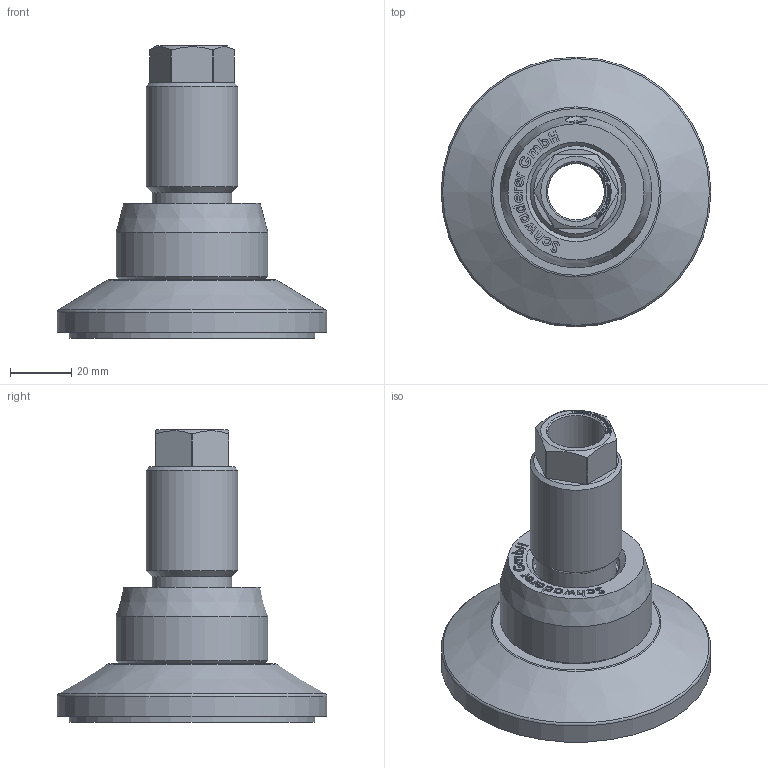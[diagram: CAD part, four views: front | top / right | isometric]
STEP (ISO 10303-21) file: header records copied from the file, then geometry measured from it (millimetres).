
FILE_DESCRIPTION(/* description */ ('JCM 80C - M30 - S6'),/* implementation_level */ '2;1');
FILE_NAME(/* name */ 'P:\CAD ab 2015\STP - Internetseite\JCMHD\JCMHD 80C - S6 - HSD70.stp',/* time_stamp */ '2021-10-01T08:41:24+02:00',/* author */ ('T. Rey'),/* organization */ ('Schwaderer GmbH Robert-Bosch-Str. 10 71563 Affalterbach'),/* preprocessor_version */ 'ST-DEVELOPER v18.1',/* originating_system */ 'Autodesk Inventor LT',/* authorisation */ '');
FILE_SCHEMA (('CONFIG_CONTROL_DESIGN'));
Length unit declared in the file: millimetre
Products named in the file (1): JCMHD 80C - S - HSD70
Bounding box: 88 x 88 x 95.4 mm (x, y, z)
Volume: 141343.7 mm3; surface area: 47904 mm2
Topology: 4 solids, 4 shells, 479 faces, 1300 edges, 869 vertices
Faces by surface type: plane 243, bspline 192, cylinder 23, cone 17, torus 3, sphere 1
Full cylindrical faces by diameter (mm): 5 x1, 18.5 x2, 25 x1, 26 x1, 26.5 x1, 27.5 x1, 28.5 x2, 30 x2, 31 x1, 49.5 x1, 80 x2, 88 x1
Entity records: 16593 total; most frequent: CARTESIAN_POINT 5621, ORIENTED_EDGE 2600, DIRECTION 1593, EDGE_CURVE 1300, VERTEX_POINT 869, LINE 781, VECTOR 781, EDGE_LOOP 529
